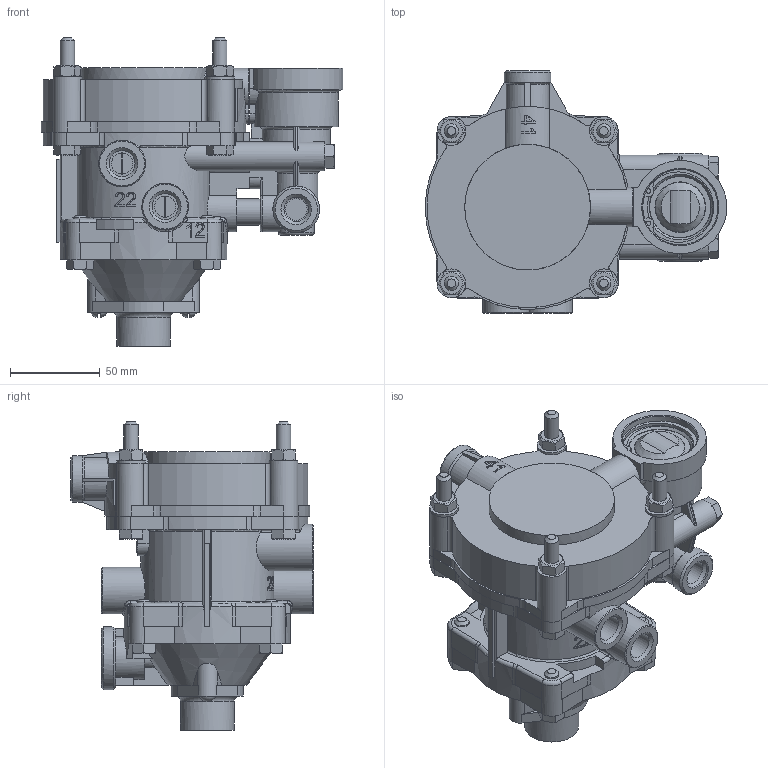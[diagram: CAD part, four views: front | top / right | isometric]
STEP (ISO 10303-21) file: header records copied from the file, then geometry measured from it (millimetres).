
FILE_DESCRIPTION(/* description */ (''),/* implementation_level */ '2;1');
FILE_NAME(/* name */ '6024.35.22.010-20-Клапан управления тормозами прицепа с двухпроводным прицепом.stp',/* time_stamp */ '2023-10-24T11:09:32+03:00',/* author */ (''),/* organization */ (''),/* preprocessor_version */ 'ST-DEVELOPER v16.7',/* originating_system */ 'SIEMENS PLM Software NX 1899',/* authorisation */ '');
FILE_SCHEMA (('AUTOMOTIVE_DESIGN { 1 0 10303 214 3 1 1 1 }'));
Length unit declared in the file: millimetre
Products named in the file (1): kuzm60B8FC360tiv
Bounding box: 167.9 x 135 x 171.7 mm (x, y, z)
Volume: 501832.4 mm3; surface area: 219471 mm2
Topology: 2 solids, 24 shells, 1407 faces, 3516 edges, 2285 vertices
Faces by surface type: plane 793, cylinder 323, cone 109, extrusion 98, torus 71, bspline 11, sphere 2
Full cylindrical faces by diameter (mm): 2.5 x2, 4 x2, 5 x3, 5.5 x5, 6 x2, 6.7 x2, 6.75 x2, 7 x3, 8 x19, 8.5 x1, 9 x5, 9.3 x4, 9.5 x4, 11 x1, 11.3 x2, 11.8 x3, 12 x2, 12.1 x1, 13.5 x4, 13.7 x4, 14.5 x9, 14.8 x3, 15 x2, 16 x6, 17 x1, 17.5 x1, 19.4 x1, 20 x2, 20.5 x1, 21.5 x1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
Entity records: 48255 total; most frequent: CARTESIAN_POINT 14539, ORIENTED_EDGE 6300, DIRECTION 6046, EDGE_CURVE 3150, AXIS2_PLACEMENT_3D 2332, VERTEX_POINT 2184, EDGE_LOOP 1850, ADVANCED_FACE 1406
